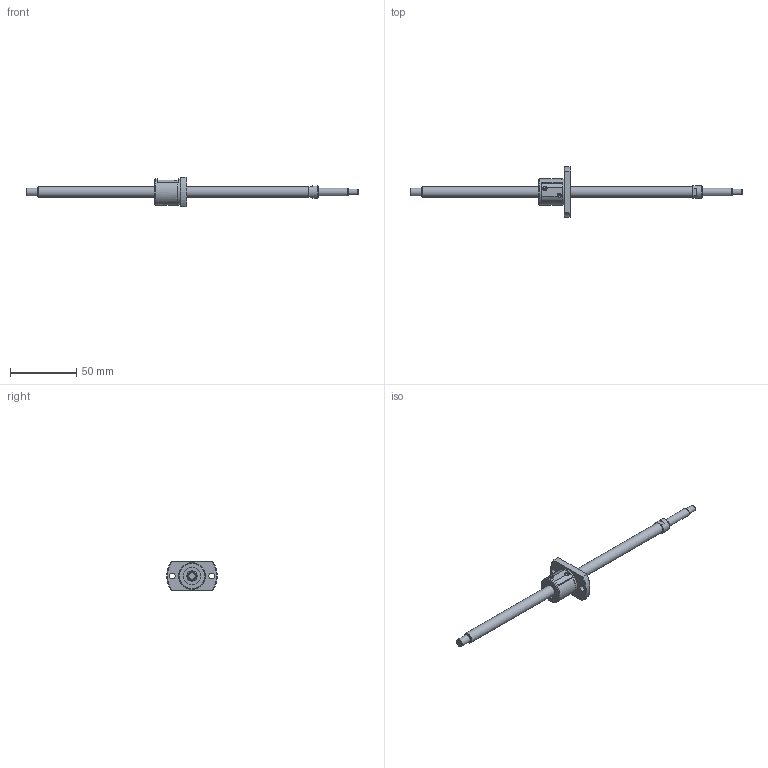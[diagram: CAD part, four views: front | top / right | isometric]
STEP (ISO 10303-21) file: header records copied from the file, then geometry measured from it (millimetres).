
FILE_DESCRIPTION(/* description */ ('STEP AP214'),/* implementation_level */ '2;1');
FILE_NAME(/* name */ 'SG0802-200R250C3C0X(88)',/* time_stamp */ '2026-07-21T16:46:39+02:00',/* author */ ('License CC BY-ND 4.0'),/* organization */ ('CADENAS'),/* preprocessor_version */ 'ST-DEVELOPER v20',/* originating_system */ 'PARTsolutions',/* authorisation */ ' ');
FILE_SCHEMA (('AUTOMOTIVE_DESIGN {1 0 10303 214 3 1 1}'));
Length unit declared in the file: millimetre
Products named in the file (3): SG0802-200R250C3C0X(88); SG0802-200R250C3C_shaft; SG0802_nut
Assembly tree (2 placements, depth 2):
  SG0802-200R250C3C0X(88)
    SG0802-200R250C3C_shaft
    SG0802_nut
Bounding box: 250 x 38 x 22 mm (x, y, z)
Volume: 19912.4 mm3; surface area: 10069.9 mm2
Topology: 2 solids, 2 shells, 75 faces, 181 edges, 118 vertices
Faces by surface type: plane 36, cylinder 24, cone 14, torus 1
Full cylindrical faces by diameter (mm): 4.5 x3, 6 x2, 8 x2, 9.5 x1, 13 x2, 19.7 x1, 20 x1
Entity records: 2117 total; most frequent: CARTESIAN_POINT 396, DIRECTION 358, ORIENTED_EDGE 298, EDGE_CURVE 149, AXIS2_PLACEMENT_3D 149, EDGE_LOOP 112, FACE_BOUND 112, VERTEX_POINT 109
